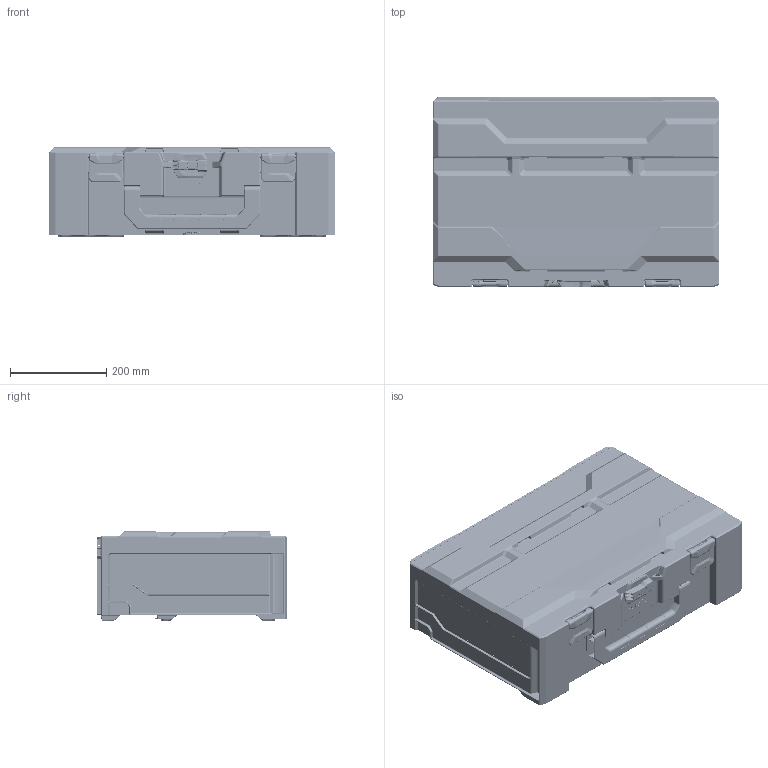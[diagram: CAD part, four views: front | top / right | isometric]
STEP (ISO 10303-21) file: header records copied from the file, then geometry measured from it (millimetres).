
FILE_DESCRIPTION(/* description */ (''),/* implementation_level */ '2;1');
FILE_NAME(/* name */ 'metaBOX_185_XL_Assy.stp',/* time_stamp */ '2021-06-23T16:33:51+02:00',/* author */ (''),/* organization */ (''),/* preprocessor_version */ 'ST-DEVELOPER v16.7',/* originating_system */ 'SIEMENS PLM Software NX 12.0',/* authorisation */ '');
FILE_SCHEMA (('AUTOMOTIVE_DESIGN { 1 0 10303 214 3 1 1 1 }'));
Products named in the file (1): BU66DC50F05s7v
Bounding box: 596 x 396.2 x 185 mm (x, y, z)
Volume: 3292702.5 mm3; surface area: 2126582.1 mm2
Topology: 6 solids, 6 shells, 13964 faces, 34175 edges, 19818 vertices
Faces by surface type: bspline 5295, cylinder 4762, plane 3050, sphere 405, cone 326, torus 126
Full cylindrical faces by diameter (mm): 4 x15, 9.1 x2
Entity records: 561724 total; most frequent: CARTESIAN_POINT 221102, ORIENTED_EDGE 66976, DIRECTION 56868, EDGE_CURVE 33488, AXIS2_PLACEMENT_3D 22300, VERTEX_POINT 19749, EDGE_LOOP 14295, ADVANCED_FACE 13963
